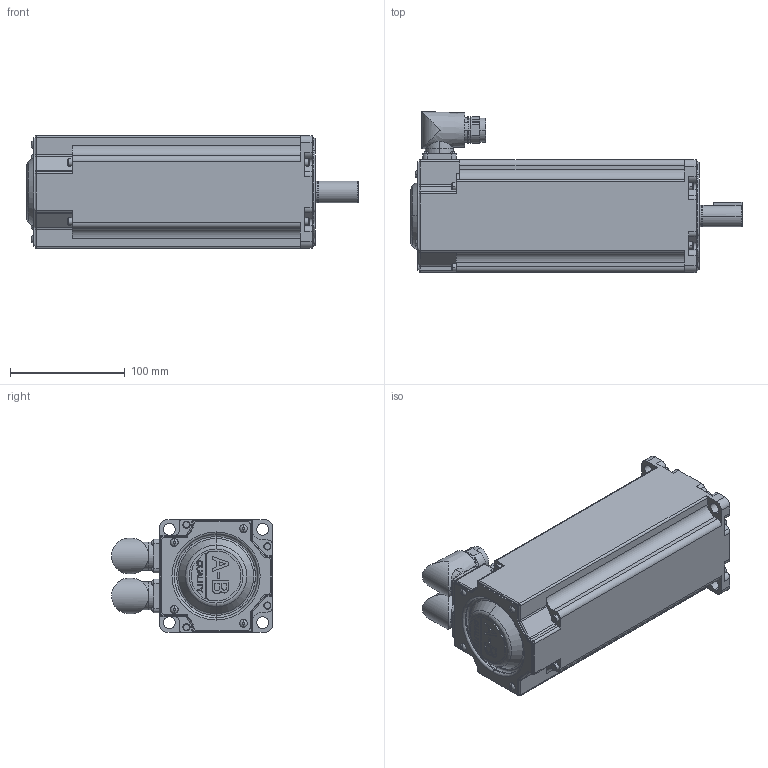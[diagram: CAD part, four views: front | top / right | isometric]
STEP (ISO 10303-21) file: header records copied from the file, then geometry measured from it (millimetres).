
FILE_DESCRIPTION (( 'STEP AP214' ), '1' );
FILE_NAME ('Rockwell Automation-MPM-B1153F-xx74xx.STEP', '2012-08-10T12:12:04', ( 'sysAdmin' ), ( 'SolidWorks' ), 'SwSTEP 2.0', 'SolidWorks 2012', '' );
FILE_SCHEMA (( 'AUTOMOTIVE_DESIGN' ));
Length unit declared in the file: inch
Products named in the file (5): Rockwell Automation-MPM-B1153F-xx74xx_Rockwell Automation-MPM_Medium_Inertia_Motor-MPM-B1153F-xx74xx_MPM-xxxx-Power Connector-M23; Rockwell Automation-MPM-B1153F-xx74xx_Rockwell Automation-MPM_Medium_Inertia_Motor-MPM-B1153F-xx74xx_MPM-xxxx-Encoder Connector; Rockwell Automation-MPM-B1153F-xx74xx_Rockwell Automation-MPM_Medium_Inertia_Motor-MPM-B1153F-xx74xx_MPM-115x-Shaft_1153-shaft-key; Rockwell Automation-MPM-B1153F-xx74xx_Rockwell Automation-MPM_Medium_Inertia_Motor-MPM-B1153F-xx74xx_MPM-115x-Body_1153-BRAKE; Rockwell Automation-MPM-B1153F-xx74xx
Assembly tree (4 placements, depth 2):
  Rockwell Automation-MPM-B1153F-xx74xx
    Rockwell Automation-MPM-B1153F-xx74xx_Rockwell Automation-MPM_Medium_Inertia_Motor-MPM-B1153F-xx74xx_MPM-115x-Body_1153-BRAKE
    Rockwell Automation-MPM-B1153F-xx74xx_Rockwell Automation-MPM_Medium_Inertia_Motor-MPM-B1153F-xx74xx_MPM-115x-Shaft_1153-shaft-key
    Rockwell Automation-MPM-B1153F-xx74xx_Rockwell Automation-MPM_Medium_Inertia_Motor-MPM-B1153F-xx74xx_MPM-xxxx-Encoder Connector
    Rockwell Automation-MPM-B1153F-xx74xx_Rockwell Automation-MPM_Medium_Inertia_Motor-MPM-B1153F-xx74xx_MPM-xxxx-Power Connector-M23
Bounding box: 289.18 x 140.21 x 98.3 mm (x, y, z)
Volume: 1151187.5 mm3; surface area: 241404.2 mm2
Topology: 5 solids, 5 shells, 1027 faces, 2524 edges, 1606 vertices
Faces by surface type: plane 413, cylinder 386, cone 100, torus 96, bspline 32
Entity records: 35453 total; most frequent: CARTESIAN_POINT 7534, DIRECTION 5488, ORIENTED_EDGE 5044, EDGE_CURVE 2522, AXIS2_PLACEMENT_3D 2072, VERTEX_POINT 1606, VECTOR 1344, LINE 1344
